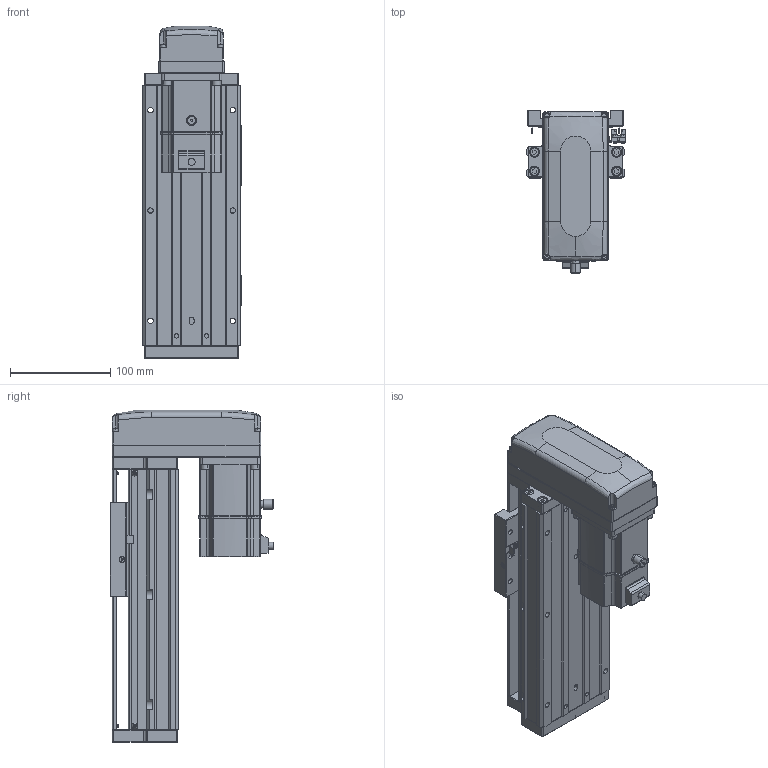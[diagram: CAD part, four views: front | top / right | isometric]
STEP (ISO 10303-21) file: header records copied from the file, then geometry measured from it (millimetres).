
FILE_DESCRIPTION (( 'STEP AP203' ), '1' );
FILE_NAME ('KTHA100-100-BM-M20-C4L.step', '2022-04-26T01:51:33', ( '微软用户' ), ( '微软中国' ), 'SwSTEP 2.0', 'SolidWorks 2020', '' );
FILE_SCHEMA (( 'CONFIG_CONTROL_DESIGN' ));
Length unit declared in the file: millimetre
Products named in the file (17): GBT77-2000 M3×3; CTHA86-033; KTHA100-004; GBT 70.1-M3℅6; KTHA100-100-BM-M20-C4L; KTHA100-005; GBT70.1 M5℅16; GB¨uT 70.2-M3¡Á5_M3¡Á6; CTHA60-016; EE_SX911P_R; GBT 70.3-M3℅6; CTHA60-017; _X2_4E0983F1_X0_200W_1; KTHA100-001_260; CTHA60-021; CTHA86-015-1_CTHA86-015-2; KTHA100-002
Assembly tree (57 placements, depth 2):
  KTHA100-100-BM-M20-C4L
    KTHA100-001_260
    KTHA100-002
    KTHA100-004
    KTHA100-005
    GB¨uT 70.2-M3¡Á5_M3¡Á6  x6
    EE_SX911P_R  x3
    CTHA60-017  x3
    CTHA60-021  x2
    GBT77-2000 M3×3  x6
    GBT 70.1-M3℅6  x10
    GBT70.1 M5℅16  x14
    CTHA60-016  x2
    GBT 70.3-M3℅6  x4
    _X2_4E0983F1_X0_200W_1
    CTHA86-015-1_CTHA86-015-2
    CTHA86-033
Bounding box: 98.82 x 163.2 x 331 mm (x, y, z)
Volume: 1913335.4 mm3; surface area: 323654.9 mm2
Topology: 60 solids, 60 shells, 2337 faces, 5553 edges, 3436 vertices
Faces by surface type: plane 1184, cylinder 647, cone 299, torus 116, bspline 75, sphere 16
Entity records: 38718 total; most frequent: CARTESIAN_POINT 7888, DIRECTION 5942, ORIENTED_EDGE 5718, EDGE_CURVE 2859, AXIS2_PLACEMENT_3D 2098, VERTEX_POINT 1796, VECTOR 1746, LINE 1746
